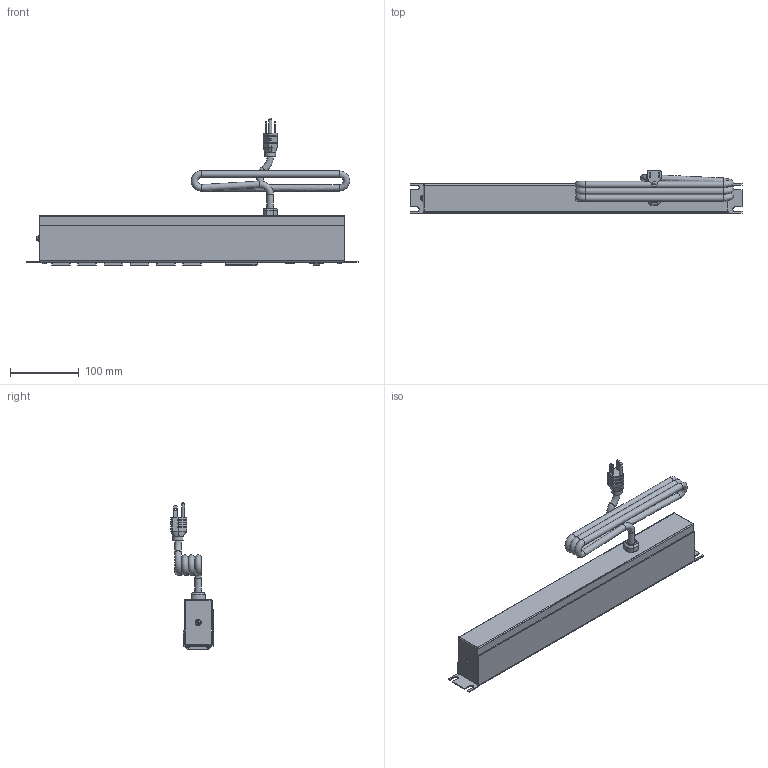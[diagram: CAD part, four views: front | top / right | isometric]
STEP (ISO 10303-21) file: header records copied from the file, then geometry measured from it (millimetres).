
FILE_DESCRIPTION((''),'2;1');
FILE_NAME('E:\Manufacturing\drawings\Updated 2011\1582 AM Series\STEP''s\1582T6A1BKAM.stp','2011-03-17T13:33:54',('tfoster'),(''),'Autodesk Inventor 2011','Autodesk Inventor 2011','');
FILE_SCHEMA(('AUTOMOTIVE_DESIGN { 1 0 10303 214 1 1 1 1 }'));
Products named in the file (13): 1582T6A1BKAM; 1582H6 Front plate; 1582 Back Plate; Reset Switch; Pilot light; Amp top; Amp reader; 2-56 x  1875 screw; Receptacle; #6 - 0.375 Type A screw; Cored 2; toothwasher; round head 1-way 8-32 x 0.5 screw
Assembly tree (23 placements, depth 2):
  1582T6A1BKAM
    1582H6 Front plate
    1582 Back Plate
    Reset Switch
    Pilot light
    Amp top
    Amp reader
    2-56 x  1875 screw  x4
    Receptacle  x6
    #6 - 0.375 Type A screw  x4
    Cored 2
    toothwasher
    round head 1-way 8-32 x 0.5 screw
Bounding box: 482.6 x 61.48 x 214.29 mm (x, y, z)
Volume: 370679.1 mm3; surface area: 307831.7 mm2
Topology: 23 solids, 23 shells, 1113 faces, 3586 edges, 2534 vertices
Faces by surface type: plane 741, cylinder 185, bspline 83, cone 47, sphere 34, torus 23
Full cylindrical faces by diameter (mm): 1.803 x3, 1.905 x2, 2.362 x8, 2.997 x4, 3 x2, 4.242 x4, 4.3 x1, 4.775 x1, 4.801 x1, 5.563 x4, 7.849 x1, 9.5 x5, 11 x1, 15.621 x1
Entity records: 27261 total; most frequent: CARTESIAN_POINT 9664, ORIENTED_EDGE 3858, DIRECTION 3152, EDGE_CURVE 1929, VERTEX_POINT 1379, VECTOR 1194, LINE 1194, AXIS2_PLACEMENT_3D 979
